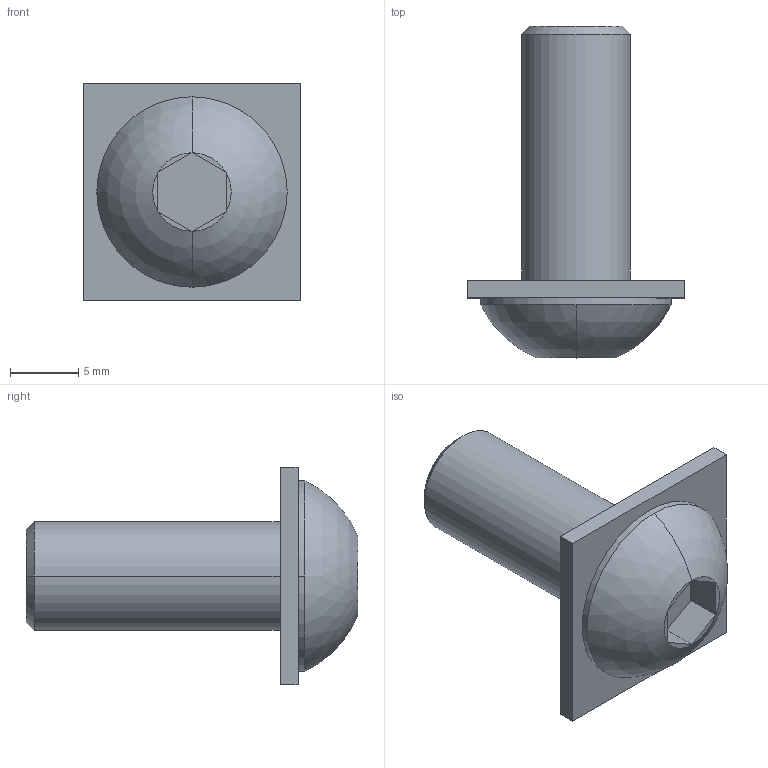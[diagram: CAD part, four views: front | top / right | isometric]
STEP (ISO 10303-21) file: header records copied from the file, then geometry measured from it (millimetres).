
FILE_DESCRIPTION((''),'2;1');
FILE_NAME('KT002_ASM','2002-12-27T',('Lipro doo'),('Lipro d.o.o.'),'PRO/ENGINEER BY PARAMETRIC TECHNOLOGY CORPORATION, 2001150','PRO/ENGINEER BY PARAMETRIC TECHNOLOGY CORPORATION, 2001150','');
FILE_SCHEMA(('CONFIG_CONTROL_DESIGN'));
Length unit declared in the file: millimetre
Products named in the file (3): VTBEI0820; ROQ0830; KT002_ASM
Assembly tree (2 placements, depth 2):
  KT002_ASM
    VTBEI0820
    ROQ0830
Bounding box: 16 x 24.4 x 16 mm (x, y, z)
Volume: 1663 mm3; surface area: 1873.4 mm2
Topology: 2 solids, 3 shells, 33 faces, 68 edges, 40 vertices
Faces by surface type: plane 21, cylinder 8, cone 2, sphere 2
Entity records: 969 total; most frequent: DIRECTION 176, CARTESIAN_POINT 148, ORIENTED_EDGE 132, AXIS2_PLACEMENT_3D 68, EDGE_CURVE 68, VECTOR 40, LINE 40, VERTEX_POINT 40
